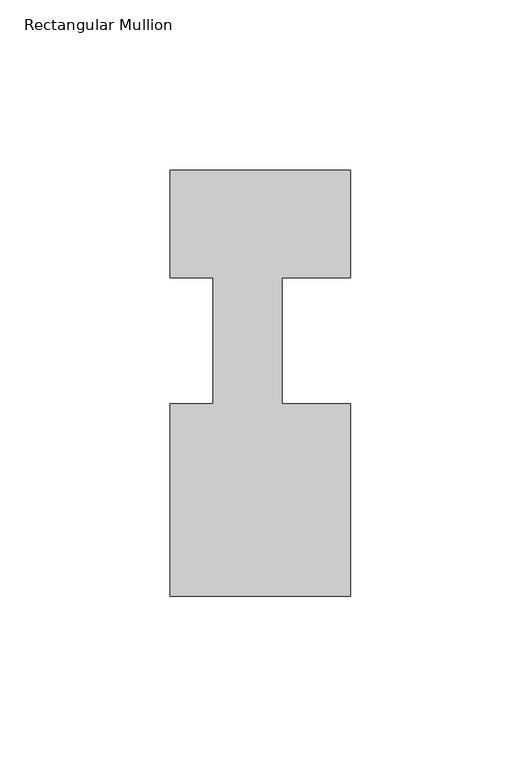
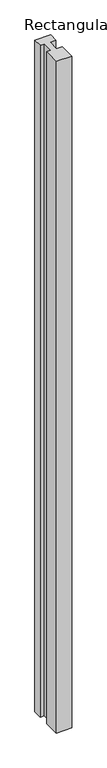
"""IFC4 building model written with IfcOpenShell, lengths in millimetres: member geometry, Rectangular Mullion : IMP310 125mm x 53mm Vertical."""

from ifc_helpers import new_model, si_unit, frame, origin, place, context, project, spatial, polyline, outline, extrude, source, transform, mapped, element, save


def rectangular_mullion_fd8a513d(model_context):
    return source(origin(), model_context, "Body", "SweptSolid", [
        extrude(outline(polyline([(-53.0, -75.0), (-53.0, -18.5), (-40.4480934, -18.5), (-40.4480934, 18.5), (-53.0, 18.5), (-53.0, 50.0), (0.0, 50.0), (0.0, 18.5), (-20.15, 18.5), (-20.15, -18.5), (0.0, -18.5), (0.0, -75.0), (-53.0, -75.0)])), frame((0.0, 0.0, -2400.0), z_axis=(0.0, 0.0, 1.0), x_axis=(1.0, 0.0, 0.0)), (0.0, 0.0, 1.0), 2400.0),
    ])


if __name__ == "__main__":
    model = new_model("IFC4")
    model_context = context("Model", 3, world=origin())
    ifc_project = project(units=[si_unit("LENGTHUNIT", "METRE", prefix="MILLI")], contexts=[model_context])
    site = spatial("IfcSite", under=ifc_project)
    building = spatial("IfcBuilding", under=site)
    placement = place(None, origin())
    rectangular_mullion_shape = rectangular_mullion_fd8a513d(model_context)
    element("IfcMember", 1, ObjectType="Rectangular Mullion : IMP310 125mm x 53mm Vertical", at=placement, inside=building, context=model_context, shape_type="MappedRepresentation", body=[
        mapped(rectangular_mullion_shape, transform((0.0, 0.0, 0.0), x_axis=(1.0, 0.0, 0.0), y_axis=(0.0, 1.0, 0.0), z_axis=(0.0, 0.0, 1.0))),
    ])
    save(model, "model.ifc")
